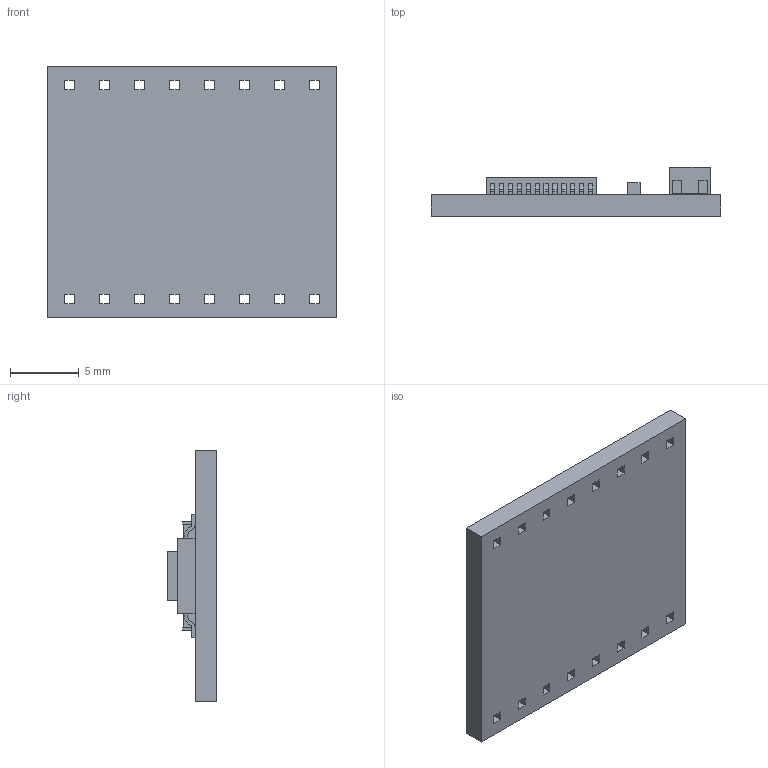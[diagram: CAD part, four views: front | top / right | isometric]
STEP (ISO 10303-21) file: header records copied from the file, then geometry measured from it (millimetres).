
FILE_DESCRIPTION (( 'STEP AP214' ), '1' );
FILE_NAME ('TB6612FNG_No Pins.STEP', '2025-02-10T06:12:07', ( '' ), ( '' ), 'SwSTEP 2.0', 'SolidWorks 2022', '' );
FILE_SCHEMA (( 'AUTOMOTIVE_DESIGN' ));
Length unit declared in the file: millimetre
Products named in the file (1): TB6612FNG_No Pins
Bounding box: 21 x 3.55 x 18.25 mm (x, y, z)
Volume: 667.2 mm3; surface area: 1055.8 mm2
Topology: 1 solids, 1 shells, 366 faces, 1080 edges, 720 vertices
Faces by surface type: plane 270, cylinder 96
Entity records: 15630 total; most frequent: CARTESIAN_POINT 2167, ORIENTED_EDGE 2160, DIRECTION 2006, EDGE_CURVE 1080, VECTOR 888, LINE 888, VERTEX_POINT 720, AXIS2_PLACEMENT_3D 559
